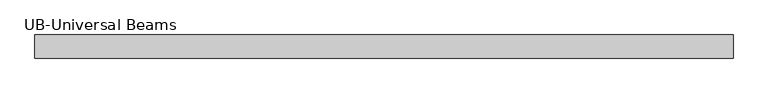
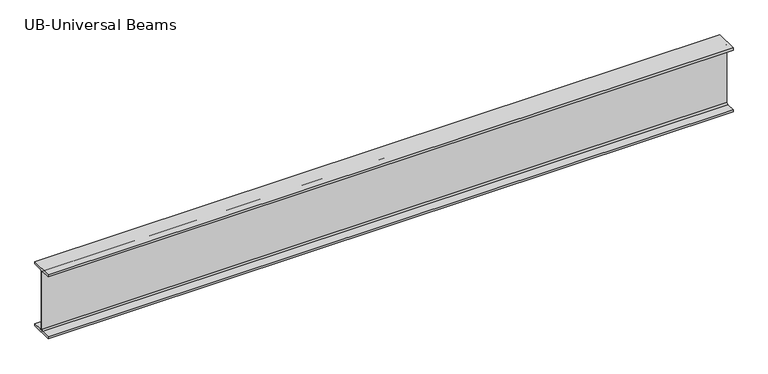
"""IFC4 building model written with IfcOpenShell, lengths in millimetres: beam geometry."""

import ifcopenshell
import ifcopenshell.guid

model = None  # the IFC model being written
_history = None  # IfcOwnerHistory: only IFC2X3 demands one
_inside = {}  # id of a spatial element -> (the spatial element, [elements in it])
_under = {}  # id of a project, library or spatial element -> (it, [spatial elements below it])
_declared = {}  # id of a project -> (the project, [libraries it declares])
_typed = {}  # id of a type object -> (the type object, [elements of that type])
_made_of = {}  # id of a material, layer set ... -> (it, [elements and type objects made of it])


def new_model(schema):
    """Start an empty IFC model of exactly this schema.

    Asked for "IFC4X3", IfcOpenShell would pick the latest addendum, in which some entities
    have other attributes; the version numbers below select the first issue.
    IFC2X3 requires an IfcOwnerHistory on every rooted entity: one is made here for all.
    """
    global model, _history
    if schema == "IFC4X3":
        model = ifcopenshell.file(schema_version=(4, 3, 0, 0))
    else:
        model = ifcopenshell.file(schema=schema)
    _inside.clear()
    _under.clear()
    _declared.clear()
    _typed.clear()
    _made_of.clear()
    _history = None
    if model.schema == "IFC2X3":
        org = make("IfcOrganization", Name="unknown")
        user = make(
            "IfcPersonAndOrganization",
            ThePerson=make("IfcPerson", FamilyName="unknown"),
            TheOrganization=org,
        )
        app = make(
            "IfcApplication",
            ApplicationDeveloper=org,
            Version="unknown",
            ApplicationFullName="unknown",
            ApplicationIdentifier="unknown",
        )
        _history = make(
            "IfcOwnerHistory",
            OwningUser=user,
            OwningApplication=app,
            ChangeAction="ADDED",
            CreationDate=0,
        )
    return model


def make(cls, **values):
    """One entity of the class cls with the attributes given. An attribute that is None is left unset."""
    return model.create_entity(
        cls, **{name: value for name, value in values.items() if value is not None}
    )


def rooted(cls, **values):
    """An entity with a GlobalId (a new one), such as an element, a storey or a relation."""
    return make(cls, GlobalId=ifcopenshell.guid.new(), OwnerHistory=_history, **values)


def si_unit(unit_type, name, prefix=None):
    """IfcSIUnit, for example si_unit("LENGTHUNIT", "METRE", prefix="MILLI")."""
    return make("IfcSIUnit", UnitType=unit_type, Prefix=prefix, Name=name)


def assignment(units):
    """IfcUnitAssignment: the units of a project."""
    return None if units is None else make("IfcUnitAssignment", Units=units)


def point(xyz):
    """IfcCartesianPoint."""
    return None if xyz is None else make("IfcCartesianPoint", Coordinates=xyz)


def direction(xyz):
    """IfcDirection."""
    return None if xyz is None else make("IfcDirection", DirectionRatios=xyz)


def frame(location, z_axis=None, x_axis=None):
    """IfcAxis2Placement3D, a coordinate frame: its origin and axes. An axis left out is left unset."""
    return make(
        "IfcAxis2Placement3D",
        Location=point(location),
        Axis=direction(z_axis),
        RefDirection=direction(x_axis),
    )


def frame_2d(location, x_axis=None):
    """IfcAxis2Placement2D, a coordinate frame in the plane: its origin and x axis."""
    return make(
        "IfcAxis2Placement2D", Location=point(location), RefDirection=direction(x_axis)
    )


def origin():
    """The frame at (0, 0, 0) with its axes left unset."""
    return frame((0.0, 0.0, 0.0))


def place(relative_to, where):
    """IfcLocalPlacement: puts the frame where relative to a parent placement (None: the world)."""
    return make(
        "IfcLocalPlacement", PlacementRelTo=relative_to, RelativePlacement=where
    )


def context(
    kind, dimensions, precision=None, world=None, true_north=None, identifier=None
):
    """IfcGeometricRepresentationContext, for example the 3D "Model" context."""
    return make(
        "IfcGeometricRepresentationContext",
        ContextIdentifier=identifier,
        ContextType=kind,
        CoordinateSpaceDimension=dimensions,
        Precision=precision,
        WorldCoordinateSystem=world,
        TrueNorth=true_north,
    )


def project(units=None, contexts=None):
    """IfcProject with its units and contexts."""
    return rooted(
        "IfcProject",
        Name="project",
        RepresentationContexts=contexts,
        UnitsInContext=assignment(units),
    )


def spatial(cls, under=None, at=None, **own):
    """A site, building, storey or space (cls), placed at a placement, below another one or the project."""
    s = rooted(cls, ObjectPlacement=at, **own)
    if under is not None:
        _under.setdefault(under.id(), (under, []))[1].append(s)
    return s


def polyline(points):
    """IfcPolyline through the points."""
    return make("IfcPolyline", Points=[point(p) for p in points])


def circle_curve(where, radius):
    """IfcCircle in the frame where."""
    return make("IfcCircle", Position=where, Radius=radius)


def trimmed(basis, trim1, trim2, sense, master):
    """IfcTrimmedCurve: the piece of a basis curve between two trims."""
    return make(
        "IfcTrimmedCurve",
        BasisCurve=basis,
        Trim1=trim1,
        Trim2=trim2,
        SenseAgreement=sense,
        MasterRepresentation=master,
    )


def segment(curve, same_sense, transition):
    """IfcCompositeCurveSegment."""
    return make(
        "IfcCompositeCurveSegment",
        Transition=transition,
        SameSense=same_sense,
        ParentCurve=curve,
    )


def composite_curve(segments, self_intersect=None):
    """IfcCompositeCurve: segments joined end to end."""
    return make("IfcCompositeCurve", Segments=segments, SelfIntersect=self_intersect)


def outline(outer, holes=None, kind="AREA"):
    """IfcArbitraryClosedProfileDef: a profile drawn as a closed curve; with holes, ...WithVoids."""
    if holes is None:
        return make("IfcArbitraryClosedProfileDef", ProfileType=kind, OuterCurve=outer)
    return make(
        "IfcArbitraryProfileDefWithVoids",
        ProfileType=kind,
        OuterCurve=outer,
        InnerCurves=holes,
    )


def extrude(swept, where, along, depth):
    """IfcExtrudedAreaSolid: the profile swept, set in the frame where, extruded along a direction by depth."""
    return make(
        "IfcExtrudedAreaSolid",
        SweptArea=swept,
        Position=where,
        ExtrudedDirection=direction(along),
        Depth=depth,
    )


def shape(context_of_items, identifier, shape_type, items):
    """IfcShapeRepresentation: the items that make up one representation, for example the "Body"."""
    return make(
        "IfcShapeRepresentation",
        ContextOfItems=context_of_items,
        RepresentationIdentifier=identifier,
        RepresentationType=shape_type,
        Items=items,
    )


def source(mapping_origin, context_of_items, identifier, shape_type, items):
    """IfcRepresentationMap: a shape defined once, which mapped items show again and again."""
    return make(
        "IfcRepresentationMap",
        MappingOrigin=mapping_origin,
        MappedRepresentation=shape(context_of_items, identifier, shape_type, items),
    )


def transform(
    local_origin,
    x_axis=None,
    y_axis=None,
    z_axis=None,
    scale=None,
    scale2=None,
    scale3=None,
    uniform=True,
):
    """IfcCartesianTransformationOperator3D, or its non-uniform kind. x_axis, y_axis, z_axis: its Axis1, 2, 3."""
    if uniform:
        return make(
            "IfcCartesianTransformationOperator3D",
            Axis1=direction(x_axis),
            Axis2=direction(y_axis),
            LocalOrigin=point(local_origin),
            Scale=scale,
            Axis3=direction(z_axis),
        )
    return make(
        "IfcCartesianTransformationOperator3DnonUniform",
        Axis1=direction(x_axis),
        Axis2=direction(y_axis),
        LocalOrigin=point(local_origin),
        Scale=scale,
        Axis3=direction(z_axis),
        Scale2=scale2,
        Scale3=scale3,
    )


def mapped(mapping_source, mapping_target):
    """IfcMappedItem: shows the shape of a source again, moved by a transform."""
    return make(
        "IfcMappedItem", MappingSource=mapping_source, MappingTarget=mapping_target
    )


def made_of(thing, what):
    """Note that an element or type object is made of a material, layer set ...; save() writes the relation."""
    if what is not None:
        _made_of.setdefault(what.id(), (what, []))[1].append(thing)
    return thing


def element(
    cls,
    number,
    at=None,
    inside=None,
    cuts=None,
    type_object=None,
    material=None,
    context=None,
    identifier="Body",
    shape_type=None,
    held_by="IfcProductDefinitionShape",
    body=None,
    shapes=None,
    **own,
):
    """One element of the class cls, such as IfcWall. Its Tag is "e" and its number.

    at: its placement. inside: the storey or other place that contains it. cuts: it is an
    opening in that element (IfcRelVoidsElement). A single representation is given by context,
    identifier, shape_type and body (its items); several are given by shapes. held_by: the class
    of the entity that holds the representations. save() writes the other relations.
    """
    e = rooted(cls, Tag="e%d" % number, ObjectPlacement=at, **own)
    if body is not None:
        shapes = [shape(context, identifier, shape_type, body)]
    if shapes is not None:
        e.Representation = make(held_by, Representations=shapes)
    if inside is not None:
        _inside.setdefault(inside.id(), (inside, []))[1].append(e)
    if cuts is not None:
        rooted(
            "IfcRelVoidsElement", RelatingBuildingElement=cuts, RelatedOpeningElement=e
        )
    if type_object is not None:
        _typed.setdefault(type_object.id(), (type_object, []))[1].append(e)
    return made_of(e, material)


def aggregate(whole, parts):
    """IfcRelAggregates: a whole, such as a stair, and the parts it consists of."""
    return rooted("IfcRelAggregates", RelatingObject=whole, RelatedObjects=parts)


def save(model, path):
    """Write the relations noted so far, then the file.

    IfcRelAggregates (storeys below a building ...), IfcRelContainedInSpatialStructure (elements
    in a storey), IfcRelDefinesByType, IfcRelAssociatesMaterial and IfcRelDeclares: one each for
    every whole, place, type object, material and project.
    """
    for whole, parts in _under.values():
        aggregate(whole, parts)
    for where, things in _inside.values():
        rooted(
            "IfcRelContainedInSpatialStructure",
            RelatedElements=things,
            RelatingStructure=where,
        )
    for kind, things in _typed.values():
        rooted("IfcRelDefinesByType", RelatedObjects=things, RelatingType=kind)
    for what, things in _made_of.values():
        rooted("IfcRelAssociatesMaterial", RelatedObjects=things, RelatingMaterial=what)
    for by, libraries in _declared.values():
        rooted("IfcRelDeclares", RelatingContext=by, RelatedDefinitions=libraries)
    model.write(path)


def ub_universal_beams_4841b023(model_context):
    return source(origin(), model_context, "Body", "SweptSolid", [
        extrude(outline(composite_curve([segment(polyline([(76.9, -214.0), (76.9, -229.0), (-76.9, -229.0), (-76.9, -214.0), (-14.7, -214.0)]), True, "CONTINUOUS"), segment(trimmed(circle_curve(frame_2d((-14.7, -203.8)), 10.2), [point((-14.7, -214.0))], [point((-4.5, -203.8))], True, "CARTESIAN"), True, "CONTINUOUS"), segment(polyline([(-4.5, -203.8), (-4.5, 203.8)]), True, "CONTINUOUS"), segment(trimmed(circle_curve(frame_2d((-14.7, 203.8)), 10.2), [point((-4.5, 203.8))], [point((-14.7, 214.0))], True, "CARTESIAN"), True, "CONTINUOUS"), segment(polyline([(-14.7, 214.0), (-76.9, 214.0), (-76.9, 229.0), (76.9, 229.0), (76.9, 214.0), (14.7, 214.0)]), True, "CONTINUOUS"), segment(trimmed(circle_curve(frame_2d((14.7, 203.8)), 10.2), [point((14.7, 214.0))], [point((4.5, 203.8))], True, "CARTESIAN"), True, "CONTINUOUS"), segment(polyline([(4.5, 203.8), (4.5, -203.8)]), True, "CONTINUOUS"), segment(trimmed(circle_curve(frame_2d((14.7, -203.8)), 10.2), [point((4.5, -203.8))], [point((14.7, -214.0))], True, "CARTESIAN"), True, "CONTINUOUS"), segment(polyline([(14.7, -214.0), (76.9, -214.0)]), True, "CONTINUOUS")], self_intersect=False)), frame((-2299.1, 0.0, 0.0), z_axis=(1.0, 0.0, 0.0), x_axis=(0.0, 1.0, 0.0)), (0.0, 0.0, 1.0), 4636.4),
    ])


if __name__ == "__main__":
    model = new_model("IFC4")
    model_context = context("Model", 3, world=origin())
    ifc_project = project(units=[si_unit("LENGTHUNIT", "METRE", prefix="MILLI")], contexts=[model_context])
    site = spatial("IfcSite", under=ifc_project)
    building = spatial("IfcBuilding", under=site)
    placement = place(None, origin())
    ub_universal_beams_shape = ub_universal_beams_4841b023(model_context)
    element("IfcBeam", 1, ObjectType="UB-Universal Beams : UB 18\" x 6\" x 2 1/2\"", at=placement, inside=building, context=model_context, shape_type="MappedRepresentation", body=[
        mapped(ub_universal_beams_shape, transform((0.0, 0.0, 0.0), x_axis=(1.0, 0.0, 0.0), y_axis=(0.0, 1.0, 0.0), z_axis=(0.0, 0.0, 1.0))),
    ])
    save(model, "model.ifc")
